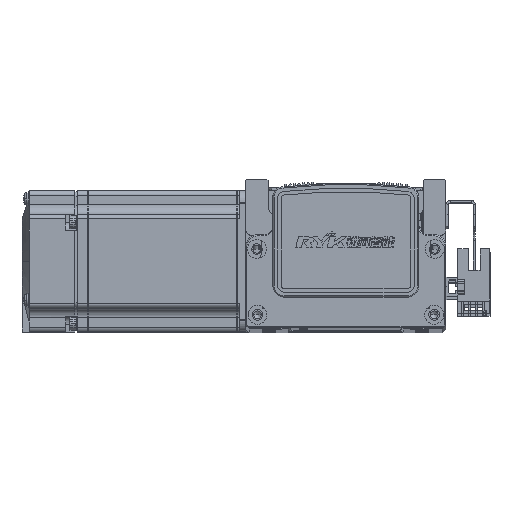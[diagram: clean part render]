
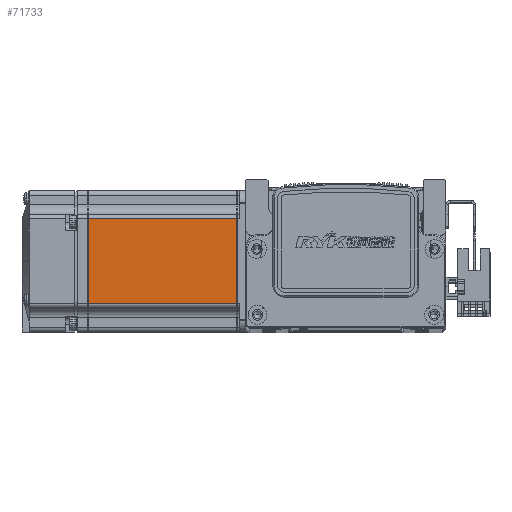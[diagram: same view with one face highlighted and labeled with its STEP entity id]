
A CAD part, top view. The second image highlights one B-rep face of the part: STEP entity #71733.
In plain terms, the highlighted planar face has unit normal (0, 0, 1) as drawn and (0, 0, -1) by its records, which use the part's own axes.
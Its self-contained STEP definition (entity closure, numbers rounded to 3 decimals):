
#16027 = FACE_OUTER_BOUND ( 'NONE', #33677, .T. ) ;
#19130 = VECTOR ( 'NONE', #71458, 1000. ) ;
#19162 = LINE ( 'NONE', #71456, #19130 ) ;
#19187 = VECTOR ( 'NONE', #70663, 1000. ) ;
#19219 = LINE ( 'NONE', #71534, #19259 ) ;
#19257 = LINE ( 'NONE', #70662, #19187 ) ;
#19259 = VECTOR ( 'NONE', #71524, 1000. ) ;
#19438 = VECTOR ( 'NONE', #31549, 1000. ) ;
#19478 = LINE ( 'NONE', #31568, #19438 ) ;
#22986 = VERTEX_POINT ( 'NONE', #65785 ) ;
#23062 = VERTEX_POINT ( 'NONE', #65931 ) ;
#23068 = VERTEX_POINT ( 'NONE', #65905 ) ;
#23096 = VERTEX_POINT ( 'NONE', #65984 ) ;
#24834 = AXIS2_PLACEMENT_3D ( 'NONE', #65527, #65422, #65470 ) ;
#31549 = DIRECTION ( 'NONE',  ( 0., -1., 0. ) ) ;
#31568 = CARTESIAN_POINT ( 'NONE',  ( -7.75, 25., -30. ) ) ;
#33677 = EDGE_LOOP ( 'NONE', ( #79879, #79923, #79914, #79915 ) ) ;
#65422 = DIRECTION ( 'NONE',  ( 0., 0., -1. ) ) ;
#65470 = DIRECTION ( 'NONE',  ( -1., 0., 0. ) ) ;
#65507 = PLANE ( 'NONE',  #24834 ) ;
#65527 = CARTESIAN_POINT ( 'NONE',  ( -6.5, 25., -30. ) ) ;
#65785 = CARTESIAN_POINT ( 'NONE',  ( -7.75, -18., -30. ) ) ;
#65905 = CARTESIAN_POINT ( 'NONE',  ( -70.95, 18., -30. ) ) ;
#65931 = CARTESIAN_POINT ( 'NONE',  ( -70.95, -18., -30. ) ) ;
#65984 = CARTESIAN_POINT ( 'NONE',  ( -7.75, 18., -30. ) ) ;
#70662 = CARTESIAN_POINT ( 'NONE',  ( -6.5, 18., -30. ) ) ;
#70663 = DIRECTION ( 'NONE',  ( 1., 0., 0. ) ) ;
#71456 = CARTESIAN_POINT ( 'NONE',  ( -6.5, -18., -30. ) ) ;
#71458 = DIRECTION ( 'NONE',  ( -1., 0., 0. ) ) ;
#71524 = DIRECTION ( 'NONE',  ( 0., 1., 0. ) ) ;
#71534 = CARTESIAN_POINT ( 'NONE',  ( -70.95, 25., -30. ) ) ;
#71733 = ADVANCED_FACE ( 'NONE', ( #16027 ), #65507, .T. ) ;
#76402 = EDGE_CURVE ( 'NONE', #22986, #23062, #19162, .T. ) ;
#76445 = EDGE_CURVE ( 'NONE', #23062, #23068, #19219, .T. ) ;
#76471 = EDGE_CURVE ( 'NONE', #23068, #23096, #19257, .T. ) ;
#76523 = EDGE_CURVE ( 'NONE', #23096, #22986, #19478, .T. ) ;
#79879 = ORIENTED_EDGE ( 'NONE', *, *, #76523, .T. ) ;
#79914 = ORIENTED_EDGE ( 'NONE', *, *, #76445, .T. ) ;
#79915 = ORIENTED_EDGE ( 'NONE', *, *, #76471, .T. ) ;
#79923 = ORIENTED_EDGE ( 'NONE', *, *, #76402, .T. ) ;
